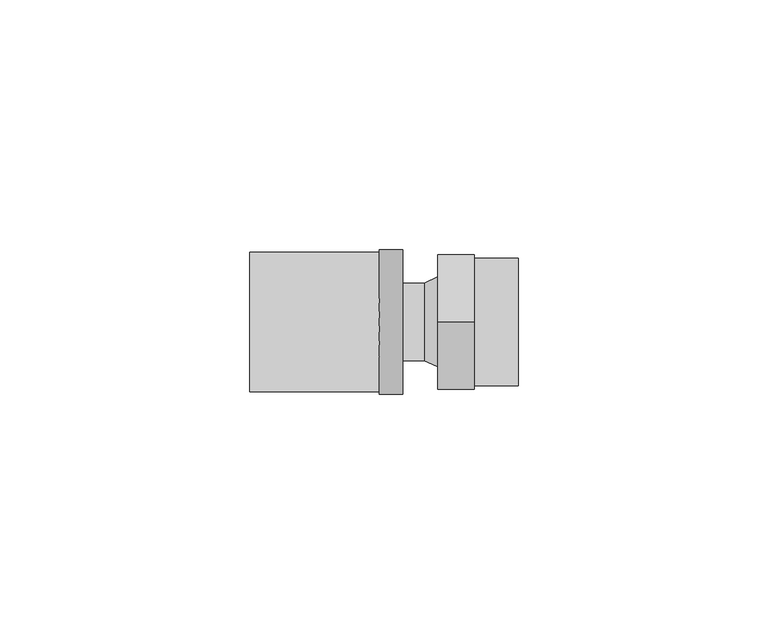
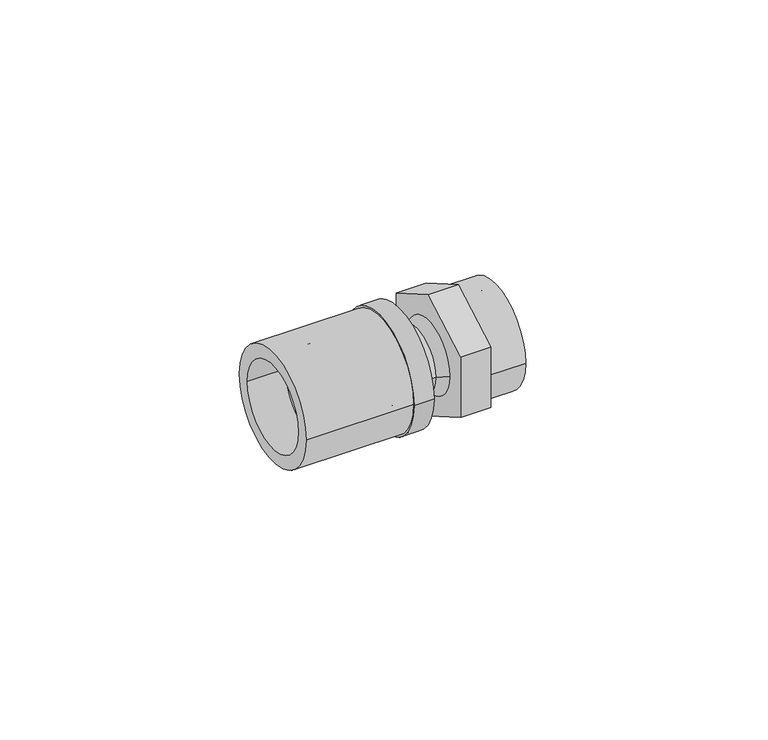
"""IFC4 building model written with IfcOpenShell, lengths in millimetres: pipe fitting geometry, FASTLOC_Adapter_LX, with internal thread : FSL A internal CZ."""

from ifc_helpers import new_model, si_unit, point, frame, origin, origin_2d, place, context, project, spatial, polyline, circle_curve, trimmed, segment, composite_curve, outline, extrude, source, transform, mapped, element, save
from ifc_brep_helpers import plane_surface, cylinder_surface, revolved_surface, advanced_brep


def pipe_fitting_f7ee4d9f(model_context):
    return source(origin(), model_context, "Body", "SolidModel", [
        extrude(outline(composite_curve([segment(trimmed(circle_curve(origin_2d(), 14.0), [point((14.0, 0.0))], [point((-14.0, 0.0))], False, "CARTESIAN"), True, "CONTINUOUS"), segment(trimmed(circle_curve(origin_2d(), 14.0), [point((-14.0, 0.0))], [point((14.0, 0.0))], False, "CARTESIAN"), True, "CONTINUOUS")], self_intersect=False), holes=[composite_curve([segment(trimmed(circle_curve(origin_2d(), 10.7), [point((10.7, 0.0))], [point((-10.7, 0.0))], True, "CARTESIAN"), True, "CONTINUOUS"), segment(trimmed(circle_curve(origin_2d(), 10.7), [point((-10.7, 0.0))], [point((10.7, 0.0))], True, "CARTESIAN"), True, "CONTINUOUS")], self_intersect=False)]), frame((-37.7, 0.0, 0.0), z_axis=(1.0, 0.0, 0.0), x_axis=(0.0, 1.0, 0.0)), (0.0, 0.0, 1.0), 26.0),
        advanced_brep(
        [(-11.7, -14.5, 0.0), (-11.7, 14.5, 0.0), (-7.0, 14.5, 0.0), (-7.0, -14.5, 0.0), (-28.7, -11.85, 0.0), (-28.7, 11.85, 0.0), (-11.7, 11.85, 0.0), (-11.7, -11.85, 0.0), (-7.0, -10.15, 0.0), (-7.0, 10.15, 0.0), (-28.7, 10.15, 0.0), (-28.7, -10.15, 0.0)],
        [
            (0, 1, circle_curve(frame((-11.7, 0.0, 0.0), z_axis=(1.0, 0.0, 0.0), x_axis=(0.0, 1.0, 0.0)), 14.5)),
            (1, 2),
            (2, 3, circle_curve(frame((-7.0, 0.0, 0.0), z_axis=(-1.0, 0.0, 0.0), x_axis=(0.0, 1.0, 0.0)), 14.5)),
            (3, 0),
            (4, 5, circle_curve(frame((-28.7, 0.0, 0.0), z_axis=(1.0, 0.0, 0.0), x_axis=(0.0, 1.0, 0.0)), 11.85)),
            (5, 6),
            (6, 7, circle_curve(frame((-11.7, 0.0, 0.0), z_axis=(-1.0, 0.0, 0.0), x_axis=(0.0, 1.0, 0.0)), 11.85)),
            (7, 4),
            (8, 9, circle_curve(frame((-7.0, 0.0, 0.0), z_axis=(1.0, 0.0, 0.0), x_axis=(0.0, 1.0, 0.0)), 10.15)),
            (9, 10),
            (10, 11, circle_curve(frame((-28.7, 0.0, 0.0), z_axis=(-1.0, 0.0, 0.0), x_axis=(0.0, 1.0, 0.0)), 10.15)),
            (11, 8),
            (1, 0, circle_curve(frame((-11.7, 0.0, 0.0), z_axis=(1.0, 0.0, 0.0), x_axis=(0.0, -1.0, 0.0)), 14.5)),
            (3, 2, circle_curve(frame((-7.0, 0.0, 0.0), z_axis=(-1.0, 0.0, 0.0), x_axis=(0.0, -1.0, 0.0)), 14.5)),
            (6, 7, circle_curve(frame((-11.7, 0.0, 0.0), z_axis=(1.0, 0.0, 0.0), x_axis=(0.0, -1.0, 0.0)), 11.85)),
            (5, 4, circle_curve(frame((-28.7, 0.0, 0.0), z_axis=(1.0, 0.0, 0.0), x_axis=(0.0, -1.0, 0.0)), 11.85)),
            (10, 11, circle_curve(frame((-28.7, 0.0, 0.0), z_axis=(1.0, 0.0, 0.0), x_axis=(0.0, -1.0, 0.0)), 10.15)),
            (9, 8, circle_curve(frame((-7.0, 0.0, 0.0), z_axis=(1.0, 0.0, 0.0), x_axis=(0.0, -1.0, 0.0)), 10.15)),
        ],
        [
            cylinder_surface(frame((-7.0, 0.0, 0.0), z_axis=(-1.0, 0.0, 0.0), x_axis=(0.0, 1.0, 0.0)), 14.5),
            cylinder_surface(frame((-7.0, 0.0, 0.0), z_axis=(-1.0, 0.0, 0.0), x_axis=(0.0, 1.0, 0.0)), 11.85),
            revolved_surface(polyline([(-28.7, 10.15, 0.0), (-7.0, 10.15, 0.0)]), (-7.0, 0.0, 0.0), (-1.0, 0.0, 0.0)),
            cylinder_surface(frame((-7.0, 0.0, 0.0), z_axis=(-1.0, 0.0, 0.0), x_axis=(0.0, -1.0, 0.0)), 14.5),
            plane_surface(frame((-11.7, 0.0, 0.0), z_axis=(-1.0, 0.0, 0.0), x_axis=(0.0, -1.0, 0.0))),
            cylinder_surface(frame((-7.0, 0.0, 0.0), z_axis=(-1.0, 0.0, 0.0), x_axis=(0.0, -1.0, 0.0)), 11.85),
            plane_surface(frame((-28.7, 0.0, 0.0), z_axis=(-1.0, 0.0, 0.0), x_axis=(0.0, -1.0, 0.0))),
            revolved_surface(polyline([(-28.7, -10.15, 0.0), (-7.0, -10.15, 0.0)]), (-7.0, 0.0, 0.0), (-1.0, 0.0, 0.0)),
            plane_surface(frame((-7.0, 0.0, 0.0), z_axis=(1.0, 0.0, 0.0), x_axis=(0.0, -1.0, 0.0))),
        ],
        [
            (0, [[1, 2, 3, 4]]),
            (1, [[5, 6, 7, 8]]),
            (2, [[9, 10, 11, 12]]),
            (3, [[13, -4, 14, -2]]),
            (4, [[-13, -1], [15, -7]]),
            (5, [[16, -8, -15, -6]]),
            (6, [[-16, -5], [17, -11]]),
            (7, [[18, -12, -17, -10]]),
            (8, [[-14, -3], [-18, -9]]),
        ],
    ),
        advanced_brep(
        [(-11.7, 7.75, 0.0), (-11.7, -7.75, 0.0), (-29.0, -7.75, 0.0), (-29.0, 7.75, 0.0), (-9.0, 9.0, 0.0), (-9.0, -9.0, 0.0), (-11.7, -9.0, 0.0), (-11.7, 9.0, 0.0), (-2.7, 7.75, 0.0), (-2.7, -7.75, 0.0), (-9.0, -7.75, 0.0), (-9.0, 7.75, 0.0), (0.0, 9.0, 0.0), (0.0, -9.0, 0.0), (-29.0, 5.75, 0.0), (-29.0, -5.75, 0.0), (0.0, -5.75, 0.0), (0.0, 5.75, 0.0)],
        [
            (0, 1, circle_curve(frame((-11.7, 0.0, 0.0), z_axis=(-1.0, 0.0, 0.0), x_axis=(0.0, -1.0, 0.0)), 7.75)),
            (1, 2),
            (2, 3, circle_curve(frame((-29.0, 0.0, 0.0), z_axis=(1.0, 0.0, 0.0), x_axis=(0.0, -1.0, 0.0)), 7.75)),
            (3, 0),
            (4, 5, circle_curve(frame((-9.0, 0.0, 0.0), z_axis=(-1.0, 0.0, 0.0), x_axis=(0.0, -1.0, 0.0)), 9.0)),
            (5, 6),
            (6, 7, circle_curve(frame((-11.7, 0.0, 0.0), z_axis=(1.0, 0.0, 0.0), x_axis=(0.0, -1.0, 0.0)), 9.0)),
            (7, 4),
            (8, 9, circle_curve(frame((-2.7, 0.0, 0.0), z_axis=(-1.0, 0.0, 0.0), x_axis=(0.0, -1.0, 0.0)), 7.75)),
            (9, 10),
            (10, 11, circle_curve(frame((-9.0, 0.0, 0.0), z_axis=(1.0, 0.0, 0.0), x_axis=(0.0, -1.0, 0.0)), 7.75)),
            (11, 8),
            (12, 13, circle_curve(frame((0.0, 0.0, 0.0), z_axis=(-1.0, 0.0, 0.0), x_axis=(0.0, -1.0, 0.0)), 9.0)),
            (13, 9),
            (8, 12),
            (14, 15, circle_curve(frame((-29.0, 0.0, 0.0), z_axis=(-1.0, 0.0, 0.0), x_axis=(0.0, -1.0, 0.0)), 5.75)),
            (15, 16),
            (16, 17, circle_curve(frame((0.0, 0.0, 0.0), z_axis=(1.0, 0.0, 0.0), x_axis=(0.0, -1.0, 0.0)), 5.75)),
            (17, 14),
            (2, 3, circle_curve(frame((-29.0, 0.0, 0.0), z_axis=(-1.0, 0.0, 0.0), x_axis=(0.0, 1.0, 0.0)), 7.75)),
            (14, 15, circle_curve(frame((-29.0, 0.0, 0.0), z_axis=(1.0, 0.0, 0.0), x_axis=(0.0, 1.0, 0.0)), 5.75)),
            (1, 0, circle_curve(frame((-11.7, 0.0, 0.0), z_axis=(-1.0, 0.0, 0.0), x_axis=(0.0, 1.0, 0.0)), 7.75)),
            (6, 7, circle_curve(frame((-11.7, 0.0, 0.0), z_axis=(-1.0, 0.0, 0.0), x_axis=(0.0, 1.0, 0.0)), 9.0)),
            (5, 4, circle_curve(frame((-9.0, 0.0, 0.0), z_axis=(-1.0, 0.0, 0.0), x_axis=(0.0, 1.0, 0.0)), 9.0)),
            (10, 11, circle_curve(frame((-9.0, 0.0, 0.0), z_axis=(-1.0, 0.0, 0.0), x_axis=(0.0, 1.0, 0.0)), 7.75)),
            (9, 8, circle_curve(frame((-2.7, 0.0, 0.0), z_axis=(-1.0, 0.0, 0.0), x_axis=(0.0, 1.0, 0.0)), 7.75)),
            (13, 12, circle_curve(frame((0.0, 0.0, 0.0), z_axis=(-1.0, 0.0, 0.0), x_axis=(0.0, 1.0, 0.0)), 9.0)),
            (16, 17, circle_curve(frame((0.0, 0.0, 0.0), z_axis=(-1.0, 0.0, 0.0), x_axis=(0.0, 1.0, 0.0)), 5.75)),
        ],
        [
            cylinder_surface(frame((0.0, 0.0, 0.0), z_axis=(1.0, 0.0, 0.0), x_axis=(0.0, -1.0, 0.0)), 7.75),
            cylinder_surface(frame((0.0, 0.0, 0.0), z_axis=(1.0, 0.0, 0.0), x_axis=(0.0, -1.0, 0.0)), 9.0),
            revolved_surface(polyline([(-2.7, -7.75, 0.0), (0.0, -9.0, 0.0)]), (0.0, 0.0, 0.0), (1.0, 0.0, 0.0)),
            revolved_surface(polyline([(0.0, -5.75, 0.0), (-29.0, -5.75, 0.0)]), (0.0, 0.0, 0.0), (1.0, 0.0, 0.0)),
            plane_surface(frame((-29.0, 0.0, 0.0), z_axis=(-1.0, 0.0, 0.0), x_axis=(0.0, 1.0, 0.0))),
            cylinder_surface(frame((0.0, 0.0, 0.0), z_axis=(1.0, 0.0, 0.0), x_axis=(0.0, 1.0, 0.0)), 7.75),
            plane_surface(frame((-11.7, 0.0, 0.0), z_axis=(-1.0, 0.0, 0.0), x_axis=(0.0, 1.0, 0.0))),
            cylinder_surface(frame((0.0, 0.0, 0.0), z_axis=(1.0, 0.0, 0.0), x_axis=(0.0, 1.0, 0.0)), 9.0),
            plane_surface(frame((-9.0, 0.0, 0.0), z_axis=(1.0, 0.0, 0.0), x_axis=(0.0, 1.0, 0.0))),
            revolved_surface(polyline([(-2.7, 7.75, 0.0), (0.0, 9.0, 0.0)]), (0.0, 0.0, 0.0), (1.0, 0.0, 0.0)),
            plane_surface(frame((0.0, 0.0, 0.0), z_axis=(1.0, 0.0, 0.0), x_axis=(0.0, 1.0, 0.0))),
            revolved_surface(polyline([(0.0, 5.75, 0.0), (-29.0, 5.75, 0.0)]), (0.0, 0.0, 0.0), (1.0, 0.0, 0.0)),
        ],
        [
            (0, [[1, 2, 3, 4]]),
            (1, [[5, 6, 7, 8]]),
            (0, [[9, 10, 11, 12]]),
            (2, [[13, 14, -9, 15]]),
            (3, [[16, 17, 18, 19]]),
            (4, [[20, -3], [21, -16]]),
            (5, [[22, -4, -20, -2]]),
            (6, [[23, -7], [-22, -1]]),
            (7, [[24, -8, -23, -6]]),
            (8, [[-24, -5], [25, -11]]),
            (5, [[26, -12, -25, -10]]),
            (9, [[27, -15, -26, -14]]),
            (10, [[-27, -13], [28, -18]]),
            (11, [[-21, -19, -28, -17]]),
        ],
    ),
        extrude(outline(polyline([(0.0, -15.5884573), (-13.5, -7.7942286), (-13.5, 7.7942286), (0.0, 15.5884573), (13.5, 7.7942286), (13.5, -7.7942286), (0.0, -15.5884573)]), holes=[composite_curve([segment(trimmed(circle_curve(origin_2d(), 5.75), [point((-5.75, 0.0))], [point((5.75, 0.0))], True, "CARTESIAN"), True, "CONTINUOUS"), segment(trimmed(circle_curve(origin_2d(), 5.75), [point((5.75, 0.0))], [point((-5.75, 0.0))], True, "CARTESIAN"), True, "CONTINUOUS")], self_intersect=False)]), frame((0.0, 0.0, 0.0), z_axis=(1.0, 0.0, 0.0), x_axis=(0.0, 1.0, 0.0)), (0.0, 0.0, 1.0), 7.3),
        extrude(outline(composite_curve([segment(trimmed(circle_curve(origin_2d(), 12.75), [point((-12.75, 0.0))], [point((12.75, 0.0))], False, "CARTESIAN"), True, "CONTINUOUS"), segment(trimmed(circle_curve(origin_2d(), 12.75), [point((12.75, 0.0))], [point((-12.75, 0.0))], False, "CARTESIAN"), True, "CONTINUOUS")], self_intersect=False), holes=[composite_curve([segment(trimmed(circle_curve(origin_2d(), 9.35), [point((-9.35, 0.0))], [point((9.35, 0.0))], True, "CARTESIAN"), True, "CONTINUOUS"), segment(trimmed(circle_curve(origin_2d(), 9.35), [point((9.35, 0.0))], [point((-9.35, 0.0))], True, "CARTESIAN"), True, "CONTINUOUS")], self_intersect=False)]), frame((7.3, 0.0, 0.0), z_axis=(1.0, 0.0, 0.0), x_axis=(0.0, 1.0, 0.0)), (0.0, 0.0, 1.0), 8.9),
    ])


if __name__ == "__main__":
    model = new_model("IFC4")
    model_context = context("Model", 3, world=origin())
    ifc_project = project(units=[si_unit("LENGTHUNIT", "METRE", prefix="MILLI")], contexts=[model_context])
    site = spatial("IfcSite", under=ifc_project)
    building = spatial("IfcBuilding", under=site)
    placement = place(None, origin())
    pipe_fitting_shape = pipe_fitting_f7ee4d9f(model_context)
    element("IfcPipeFitting", 1, ObjectType="FASTLOC_Adapter_LX, with internal thread : FSL A internal CZ", at=placement, inside=building, context=model_context, shape_type="MappedRepresentation", body=[
        mapped(pipe_fitting_shape, transform((0.0, 0.0, 0.0), x_axis=(1.0, 0.0, 0.0), y_axis=(0.0, 1.0, 0.0), z_axis=(0.0, 0.0, 1.0))),
    ])
    save(model, "model.ifc")
